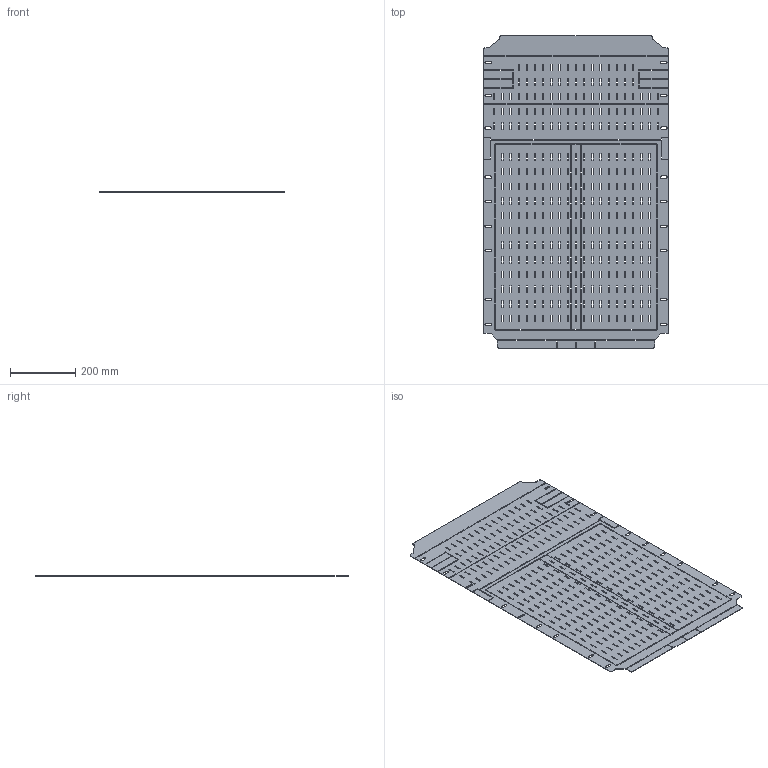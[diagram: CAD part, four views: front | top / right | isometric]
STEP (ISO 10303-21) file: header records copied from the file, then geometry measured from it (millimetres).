
FILE_DESCRIPTION(('STEP AP203'), '1');
FILE_NAME('Îãðàæäåíèå âåðõíåå ÔÁ Ø600õÃ1000 ìì OptiBox M 419186 ÊÝÀÇ', '', ('UNSPECIFIED'), ('UNSPECIFIED'), 'C3D Converter', 'C3D Toolkit', '');
FILE_SCHEMA(('CONFIG_CONTROL_DESIGN'));
Length unit declared in the file: millimetre
Bounding box: 567 x 955 x 1.5 mm (x, y, z)
Volume: 742470.4 mm3; surface area: 1037771.4 mm2
Topology: 1 solids, 1 shells, 1850 faces, 5544 edges, 3696 vertices
Faces by surface type: plane 1778, cylinder 72
Entity records: 62968 total; most frequent: CARTESIAN_POINT 11091, ORIENTED_EDGE 11088, DIRECTION 9390, EDGE_CURVE 5544, LINE 5400, VECTOR 5400, VERTEX_POINT 3696, FACE_BOUND 2738
